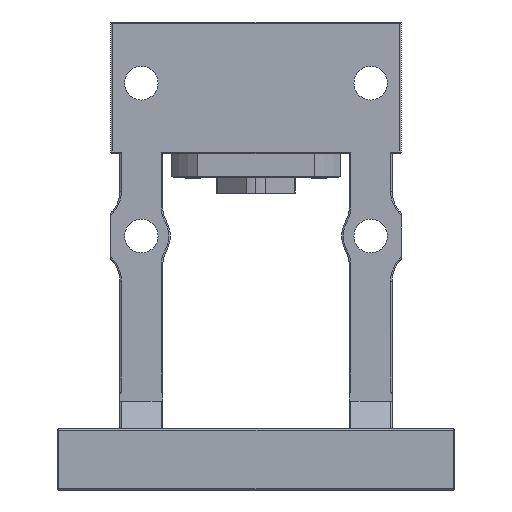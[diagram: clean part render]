
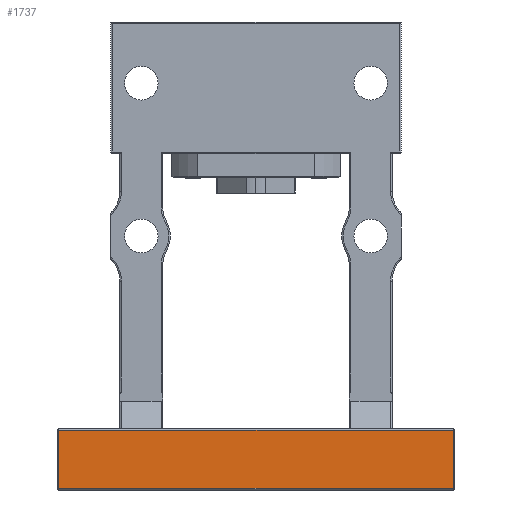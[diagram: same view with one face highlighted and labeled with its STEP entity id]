
A CAD part, front view. The second image highlights one B-rep face of the part: STEP entity #1737.
In plain terms, the highlighted planar face has unit normal (0, -1, 0).
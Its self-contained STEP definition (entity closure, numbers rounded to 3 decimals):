
#451 = EDGE_CURVE ( 'NONE', #4061, #4853, #6877, .T. ) ;
#869 = VECTOR ( 'NONE', #10889, 1000. ) ;
#1351 = ORIENTED_EDGE ( 'NONE', *, *, #5280, .T. ) ;
#1489 = VECTOR ( 'NONE', #11048, 1000. ) ;
#1737 = ADVANCED_FACE ( 'NONE', ( #9457 ), #10564, .F. ) ;
#2061 = ORIENTED_EDGE ( 'NONE', *, *, #451, .T. ) ;
#2391 = CARTESIAN_POINT ( 'NONE',  ( 64.5, -65., -124.5 ) ) ;
#2430 = VECTOR ( 'NONE', #2875, 1000. ) ;
#2700 = EDGE_CURVE ( 'NONE', #5412, #7215, #9436, .T. ) ;
#2860 = ORIENTED_EDGE ( 'NONE', *, *, #4717, .T. ) ;
#2875 = DIRECTION ( 'NONE',  ( 0., 0., 1. ) ) ;
#3326 = LINE ( 'NONE', #11234, #869 ) ;
#3420 = CARTESIAN_POINT ( 'NONE',  ( 64.5, -65., -143.5 ) ) ;
#4060 = CARTESIAN_POINT ( 'NONE',  ( -64.5, -65., -143.5 ) ) ;
#4061 = VERTEX_POINT ( 'NONE', #5422 ) ;
#4717 = EDGE_CURVE ( 'NONE', #7215, #4061, #6214, .T. ) ;
#4853 = VERTEX_POINT ( 'NONE', #4060 ) ;
#5280 = EDGE_CURVE ( 'NONE', #4853, #5412, #3326, .T. ) ;
#5412 = VERTEX_POINT ( 'NONE', #3420 ) ;
#5422 = CARTESIAN_POINT ( 'NONE',  ( -64.5, -65., -124.5 ) ) ;
#6214 = LINE ( 'NONE', #11016, #1489 ) ;
#6408 = CARTESIAN_POINT ( 'NONE',  ( 64.5, -65., -124. ) ) ;
#6593 = VECTOR ( 'NONE', #10590, 1000. ) ;
#6877 = LINE ( 'NONE', #10410, #6593 ) ;
#7215 = VERTEX_POINT ( 'NONE', #2391 ) ;
#7216 = EDGE_LOOP ( 'NONE', ( #2860, #2061, #1351, #10544 ) ) ;
#7798 = AXIS2_PLACEMENT_3D ( 'NONE', #10595, #10632, #10709 ) ;
#9436 = LINE ( 'NONE', #6408, #2430 ) ;
#9457 = FACE_OUTER_BOUND ( 'NONE', #7216, .T. ) ;
#10410 = CARTESIAN_POINT ( 'NONE',  ( -64.5, -65., -124. ) ) ;
#10544 = ORIENTED_EDGE ( 'NONE', *, *, #2700, .T. ) ;
#10564 = PLANE ( 'NONE',  #7798 ) ;
#10590 = DIRECTION ( 'NONE',  ( 0., 0., -1. ) ) ;
#10595 = CARTESIAN_POINT ( 'NONE',  ( 65., -65., -124. ) ) ;
#10632 = DIRECTION ( 'NONE',  ( 0., 1., 0. ) ) ;
#10709 = DIRECTION ( 'NONE',  ( -1., 0., 0. ) ) ;
#10889 = DIRECTION ( 'NONE',  ( 1., 0., 0. ) ) ;
#11016 = CARTESIAN_POINT ( 'NONE',  ( -65., -65., -124.5 ) ) ;
#11048 = DIRECTION ( 'NONE',  ( -1., 0., 0. ) ) ;
#11234 = CARTESIAN_POINT ( 'NONE',  ( 65., -65., -143.5 ) ) ;
